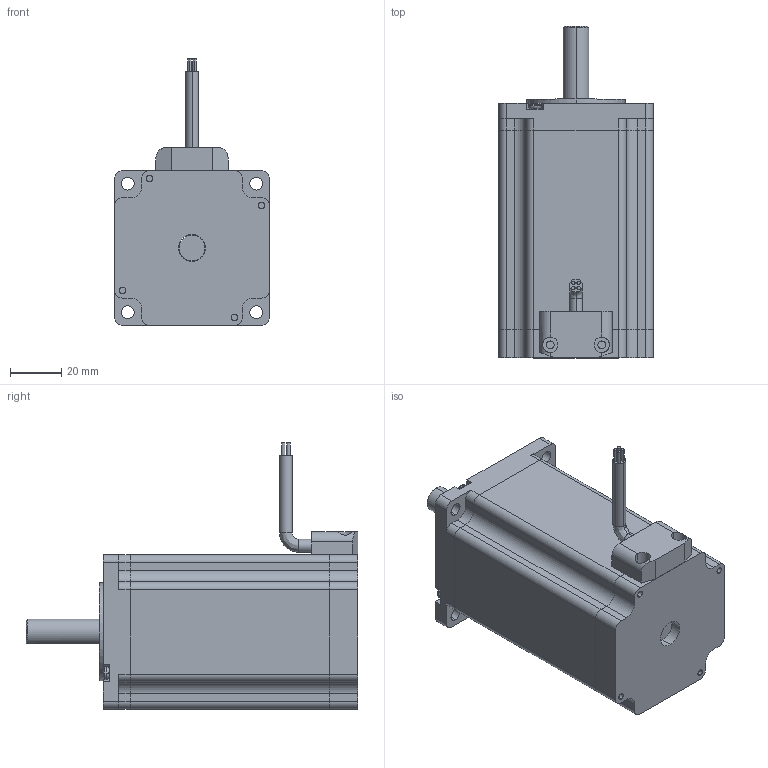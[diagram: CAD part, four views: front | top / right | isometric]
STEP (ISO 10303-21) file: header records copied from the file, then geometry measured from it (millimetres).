
FILE_DESCRIPTION (( 'STEP AP214' ), '1' );
FILE_NAME ('60BYGH2100-10-A.STEP', '2020-05-21T07:32:28', ( 'Windows' ), ( 'Microsoft' ), 'SwSTEP 2.0', 'SolidWorks 2015', '' );
FILE_SCHEMA (( 'AUTOMOTIVE_DESIGN' ));
Length unit declared in the file: millimetre
Products named in the file (7): 60BYGH2100-10-A; 揤盄裔; M3蹟隊; 60ヶ傷裔; 60綴傷裔; 60隅赽; 粣
Assembly tree (9 placements, depth 2):
  60BYGH2100-10-A
    粣
    60隅赽
    60綴傷裔
    60ヶ傷裔
    M3蹟隊  x4
    揤盄裔
Bounding box: 60 x 129 x 103.5 mm (x, y, z)
Volume: 324393.5 mm3; surface area: 56298.7 mm2
Topology: 9 solids, 9 shells, 284 faces, 735 edges, 479 vertices
Faces by surface type: cylinder 138, plane 125, bspline 18, cone 3
Entity records: 9503 total; most frequent: CARTESIAN_POINT 1337, DIRECTION 1223, ORIENTED_EDGE 1128, EDGE_CURVE 564, AXIS2_PLACEMENT_3D 449, VERTEX_POINT 371, LINE 325, VECTOR 325
